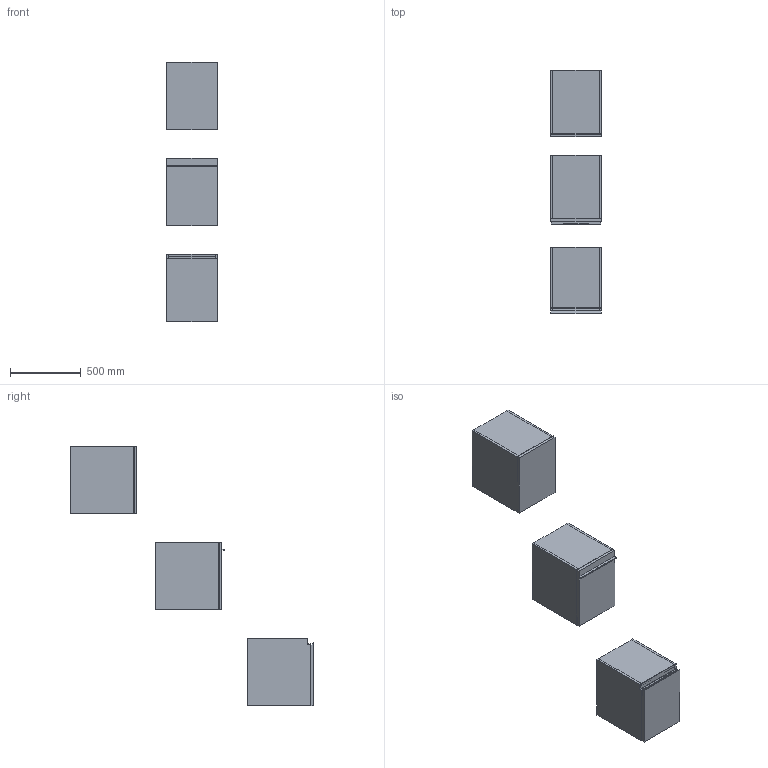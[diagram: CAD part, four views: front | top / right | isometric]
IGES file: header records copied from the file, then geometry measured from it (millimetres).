
Start section: Data from Parasolid IGES Translator 19.0.9, Copyright(c) 2006 Siemens PL M Software. All Rights Reserved.
Global section: file name: noorth-SI-H 48 D 47 W 36_8502.igs; native system: By Siemens PLM Incorporated; preprocessor: XPlus GENERIC/IGES 19.0.9; author: Noname; organization: Noname; date: 20200601.110858; units: metre
Bounding box: 360.01 x 1719.1 x 1840 mm (x, y, z)
Volume: 45534672 mm3; surface area: 6717167.1 mm2
Topology: 20 solids, 20 shells, 178 faces, 382 edges, 234 vertices
Faces by surface type: plane 134, extrusion 16, bspline 16, cylinder 12
